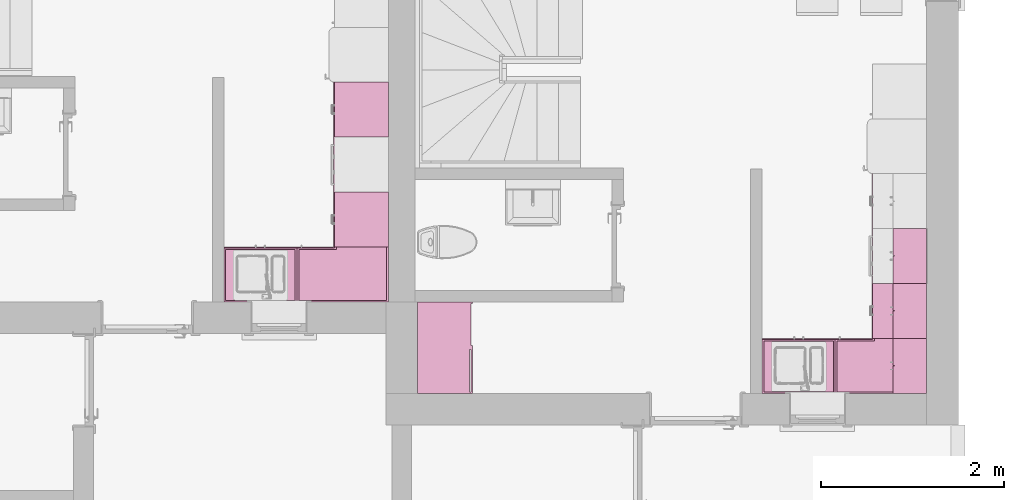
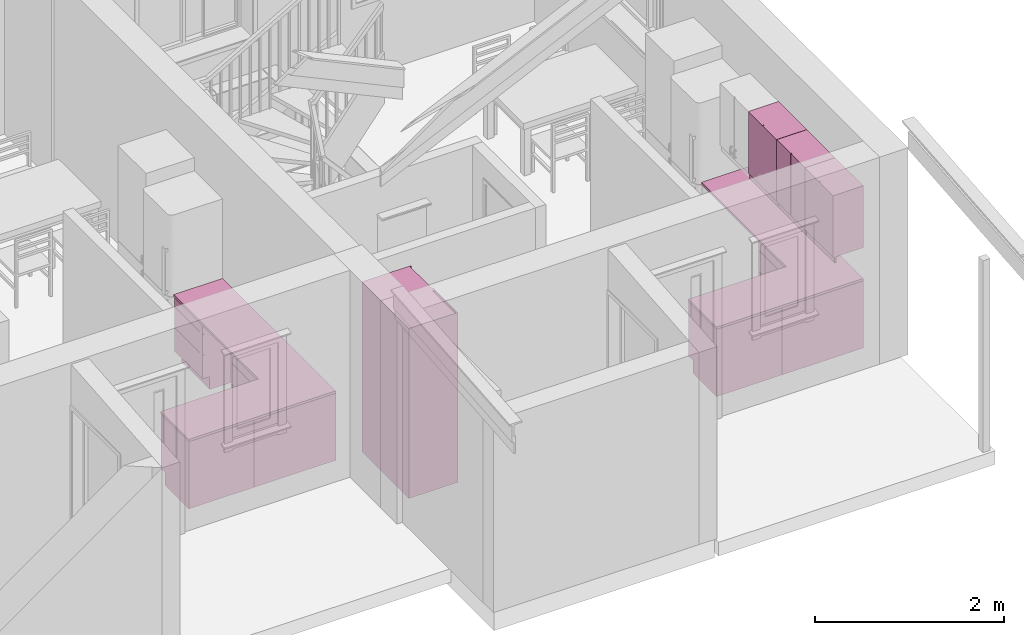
# One storey, part 42 of 65: 13 furnishings.
"""IFC2X3 building model written with IfcOpenShell, lengths in millimetres."""

from ifc_helpers import new_model, entity, si_unit, converted_unit, direction, frame, frame_2d, origin, place, context, subcontext, project, spatial, polyline, rectangle, outline, extrude, faceted_brep, source, transform, mapped, material, material_list, type_object, type_shapes, element, save


model = new_model("IFC2X3")

# Units and contexts
model_context = context("Model", 3, precision=0.01, world=origin(), true_north=direction((0.0, 1.0)))
body_context = subcontext(model_context, "Body", "Model", "MODEL_VIEW")
ifc_project = project(units=[si_unit("LENGTHUNIT", "METRE", prefix="MILLI"), si_unit("AREAUNIT", "SQUARE_METRE"), si_unit("VOLUMEUNIT", "CUBIC_METRE"), converted_unit("PLANEANGLEUNIT", "DEGREE", entity("IfcPlaneAngleMeasure", 0.017453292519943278), si_unit("PLANEANGLEUNIT", "RADIAN"), dimensions=[0, 0, 0, 0, 0, 0, 0])], contexts=[model_context])

# Site, building, storey, space
site_placement = place(None, origin())
site = spatial("IfcSite", under=ifc_project, at=site_placement, Name="Default", CompositionType="ELEMENT")
building_placement = place(site_placement, origin())
building = spatial("IfcBuilding", under=site, at=building_placement, CompositionType="ELEMENT")
storey_placement = place(building_placement, origin())
storey = spatial("IfcBuildingStorey", under=building, at=storey_placement, Name="Et. 1", CompositionType="ELEMENT", Elevation=0.0)
space_1_placement = place(storey_placement, origin())
space_1 = spatial("IfcSpace", under=storey, at=space_1_placement, Name="115", CompositionType="ELEMENT", InteriorOrExteriorSpace="INTERNAL")

# Furnishing
ifc_material_1 = material(Name="Møbler - Hvit")
furniture_type_1 = type_object("IfcFurnitureType", Name="Focus Garderobeskap - Skyvedører 2 slette:100x60x220", AssemblyPlace="NOTDEFINED", material=ifc_material_1)
shared_shape_1 = source(origin(), body_context, "Body", "SweptSolid", [
    extrude(rectangle(XDim=16.000000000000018, YDim=504.0000000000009, at=frame_2d((0.0, 4.263256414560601e-14), x_axis=(1.0, 0.0))), frame((232.0, 292.0, 10.0), z_axis=(0.0, 0.0, 1.0), x_axis=(0.0, 1.0, 0.0)), (0.0, 0.0, 1.0), 2189.9999999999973),
    extrude(rectangle(XDim=16.000000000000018, YDim=504.00000000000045, at=frame_2d((0.0, 4.263256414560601e-14), x_axis=(1.0, 0.0))), frame((-232.0, 276.0, 10.0), z_axis=(0.0, 0.0, 1.0), x_axis=(0.0, 1.0, 0.0)), (0.0, 0.0, 1.0), 2189.9999999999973),
    extrude(outline(polyline([(-442.0, -500.0), (158.0, -500.0), (158.0, -484.0), (126.0, -484.0), (126.0, 484.0), (158.0, 484.0), (158.0, 500.0), (-442.0, 500.0), (-442.0, -500.0)])), frame((0.0, 142.0, 0.0), z_axis=(0.0, 0.0, 1.0), x_axis=(0.0, 1.0, 0.0)), (0.0, 0.0, 1.0), 2200.0000000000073),
])
type_shapes(furniture_type_1, [shared_shape_1])
furnishing_1_placement = place(space_1_placement, frame((28651.009586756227, 9254.18095768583, 0.0), z_axis=(0.0, 0.0, 1.0), x_axis=(0.0, -1.0, 0.0)))
element("IfcFurnishingElement", 1, at=furnishing_1_placement, inside=space_1, type_object=furniture_type_1, material=ifc_material_1, Name="Focus Garderobeskap - Skyvedører 2 slette:100x60x220", context=body_context, shape_type="MappedRepresentation", body=[
    mapped(shared_shape_1, transform((0.0, 0.0, 0.0), scale=1.0)),
])

# Space
space_2_placement = place(storey_placement, origin())
space_2 = spatial("IfcSpace", under=storey, at=space_2_placement, Name="113", CompositionType="ELEMENT", InteriorOrExteriorSpace="INTERNAL")

# Furnishing
ifc_material_2 = material(Name="Focus - Kjøkken - Front")
ifc_material_3 = material(Name="Focus - Kjøkken - Skapstamme")
ifc_material_list = material_list([ifc_material_2, ifc_material_3])
furniture_type_2 = type_object("IfcFurnitureType", Name="Focus - Kjøkken - Benkeskap 3 skuffer:600 mm", AssemblyPlace="NOTDEFINED", material=ifc_material_list)
shared_shape_2 = source(origin(), body_context, "Body", "SweptSolid", [
    extrude(rectangle(XDim=600.0, YDim=503.99999999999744, at=frame_2d((-2.842170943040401e-14, -2.842170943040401e-14), x_axis=(1.0, 0.0))), frame((-254.58506095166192, 499.8168112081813, 0.0), z_axis=(0.0, 0.0, 1.0), x_axis=(-1.0, 0.0, 0.0)), (0.0, 0.0, 1.0), 165.99999999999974),
    extrude(rectangle(XDim=16.000000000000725, YDim=600.0000000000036, at=frame_2d((0.0, 2.842170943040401e-14), x_axis=(1.0, 0.0))), frame((-254.58506095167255, 169.81681120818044, 747.0), z_axis=(0.0, 0.0, 1.0), x_axis=(0.0, -1.0, 0.0)), (0.0, 0.0, 1.0), 122.99999999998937),
    extrude(rectangle(XDim=16.000000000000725, YDim=600.0, at=frame_2d((0.0, 2.842170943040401e-14), x_axis=(1.0, 0.0))), frame((-254.58506095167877, 169.81681120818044, 166.0), z_axis=(0.0, 0.0, 1.0), x_axis=(0.0, -1.0, 0.0)), (0.0, 0.0, 1.0), 303.0000000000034),
    extrude(rectangle(XDim=16.000000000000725, YDim=599.9999999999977, at=frame_2d((0.0, 2.842170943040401e-14), x_axis=(1.0, 0.0))), frame((-254.58506095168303, 169.81681120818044, 475.0), z_axis=(0.0, 0.0, 1.0), x_axis=(0.0, -1.0, 0.0)), (0.0, 0.0, 1.0), 265.9999999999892),
    extrude(rectangle(XDim=573.9999999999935, YDim=599.9999999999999, at=frame_2d((-90.33333333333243, 2.842170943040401e-14), x_axis=(1.0, 0.0))), frame((-254.5850609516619, 555.1501445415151, 166.0), z_axis=(0.0, 0.0, 1.0), x_axis=(0.0, 1.0, 0.0)), (0.0, 0.0, 1.0), 704.0000000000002),
])
type_shapes(furniture_type_2, [shared_shape_2])
furnishing_2_placement = place(space_2_placement, frame((33167.19277554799, 9399.59589673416, 0.0), z_axis=(0.0, 0.0, 1.0), x_axis=(0.0, -1.0, 0.0)))
element("IfcFurnishingElement", 2, at=furnishing_2_placement, inside=space_2, type_object=furniture_type_2, material=ifc_material_list, Name="Focus - Kjøkken - Benkeskap 3 skuffer:600 mm", context=body_context, shape_type="MappedRepresentation", body=[
    mapped(shared_shape_2, transform((0.0, 0.0, 0.0), scale=1.0)),
])

# Space
space_3_placement = place(storey_placement, origin())
space_3 = spatial("IfcSpace", under=storey, at=space_3_placement, Name="109", CompositionType="ELEMENT", InteriorOrExteriorSpace="INTERNAL")

# Furnishings
for number, where, z_axis, x_axis in (
    (3, (27280.192775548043, 10399.595896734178, 0.0), (0.0, 0.0, 1.0), (0.0, -1.0, 0.0)),
    (4, (27280.19277554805, 11601.473658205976, 0.0), (0.0, 0.0, 1.0), (0.0, -1.0, 0.0)),
):
    element("IfcFurnishingElement", number, at=place(space_3_placement, frame(where, z_axis=z_axis, x_axis=x_axis)), inside=space_3, type_object=furniture_type_2, material=ifc_material_list, Name="Focus - Kjøkken - Benkeskap 3 skuffer:600 mm", context=body_context, shape_type="MappedRepresentation", body=[
        mapped(shared_shape_2, transform((0.0, 0.0, 0.0), scale=1.0)),
    ])
furniture_type_3 = type_object("IfcFurnitureType", Name="Focus - Kjøkken - Benkeskap  2  dører:800 mm", AssemblyPlace="NOTDEFINED", material=ifc_material_list)
shared_shape_3 = source(origin(), body_context, "Body", "Brep", [
    faceted_brep([(145.41493904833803, 751.8168112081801, 166.0), (-654.5850609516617, 751.8168112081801, 166.0), (-654.5850609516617, 247.8168112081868, 166.0), (145.41493904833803, 247.8168112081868, 166.0), (145.41493904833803, 751.8168112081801, 0.0), (145.41493904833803, 247.8168112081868, 0.0), (-654.5850609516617, 247.8168112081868, 0.0), (-654.5850609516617, 751.8168112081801, 0.0)], [[[0, 1, 2, 3]], [[4, 5, 6, 7]], [[1, 0, 4, 7]], [[2, 1, 7, 6]], [[3, 2, 6, 5]], [[0, 3, 5, 4]]]),
    faceted_brep([(-253.58506095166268, 177.81681120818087, 870.0), (145.41493904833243, 177.8168112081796, 870.0), (145.41493904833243, 177.8168112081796, 166.0), (-253.58506095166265, 177.81681120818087, 166.0), (-253.58506095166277, 161.81681120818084, 870.0), (-253.5850609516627, 161.81681120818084, 166.0), (145.41493904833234, 161.81681120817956, 166.0), (145.41493904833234, 161.81681120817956, 870.0)], [[[0, 1, 2, 3]], [[4, 5, 6, 7]], [[1, 0, 4, 7]], [[2, 1, 7, 6]], [[3, 2, 6, 5]], [[0, 3, 5, 4]]]),
    faceted_brep([(-255.58506095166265, 177.81681120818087, 166.0), (-255.58506095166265, 177.81681120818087, 870.0), (-255.5850609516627, 161.81681120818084, 870.0), (-255.5850609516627, 161.81681120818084, 166.0), (-654.5850609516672, 177.81681120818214, 166.0), (-654.5850609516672, 161.81681120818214, 166.0), (-654.5850609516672, 177.81681120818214, 870.0), (-654.5850609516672, 161.81681120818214, 870.0)], [[[0, 1, 2, 3]], [[4, 0, 3, 5]], [[6, 4, 5, 7]], [[1, 6, 7, 2]], [[2, 7, 5, 3]], [[1, 0, 4, 6]]]),
    faceted_brep([(-654.5850609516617, 177.81681120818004, 870.0), (-654.5850609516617, 177.81681120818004, 166.0), (145.41493904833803, 177.81681120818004, 166.0), (145.41493904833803, 177.81681120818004, 870.0), (125.41493904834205, 177.81681120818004, 870.0), (125.41493904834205, 177.81681120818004, 186.0), (-634.5850609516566, 177.81681120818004, 186.0), (-634.5850609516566, 177.81681120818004, 870.0), (145.41493904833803, 751.8168112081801, 870.0), (145.41493904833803, 751.8168112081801, 166.0), (-654.5850609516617, 751.8168112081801, 166.0), (-654.5850609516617, 751.8168112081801, 870.0), (-654.5850609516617, 735.8168112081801, 166.0), (145.41493904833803, 735.8168112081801, 166.0), (-634.5850609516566, 735.8168112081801, 870.0), (125.41493904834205, 735.8168112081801, 870.0), (125.41493904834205, 735.8168112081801, 186.0), (-634.5850609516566, 735.8168112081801, 186.0)], [[[0, 1, 2, 3, 4, 5, 6, 7]], [[8, 9, 10, 11]], [[1, 0, 11, 10, 12]], [[2, 1, 12, 10, 9, 13]], [[8, 3, 2, 13, 9]], [[4, 3, 8, 11, 0, 7, 14, 15]], [[5, 4, 15, 16]], [[6, 5, 16, 17]], [[7, 6, 17, 14]], [[15, 14, 17, 16]]]),
])
type_shapes(furniture_type_3, [shared_shape_3])
furnishing_3_placement = place(space_2_placement, frame((32264.424525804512, 9505.997768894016, 0.0), z_axis=(0.0, 0.0, 1.0), x_axis=(-1.0, 0.0, 0.0)))
element("IfcFurnishingElement", 5, at=furnishing_3_placement, inside=space_2, type_object=furniture_type_3, material=ifc_material_list, Name="Focus - Kjøkken - Benkeskap  2  dører:800 mm", context=body_context, shape_type="MappedRepresentation", body=[
    mapped(shared_shape_3, transform((0.0, 0.0, 0.0), scale=1.0)),
])
furnishing_4_placement = place(space_3_placement, frame((26377.424525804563, 10505.997768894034, 0.0), z_axis=(0.0, 0.0, 1.0), x_axis=(-1.0, 0.0, 0.0)))
element("IfcFurnishingElement", 6, at=furnishing_4_placement, inside=space_3, type_object=furniture_type_3, material=ifc_material_list, Name="Focus - Kjøkken - Benkeskap  2  dører:800 mm", context=body_context, shape_type="MappedRepresentation", body=[
    mapped(shared_shape_3, transform((0.0, 0.0, 0.0), scale=1.0)),
])
furniture_type_4 = type_object("IfcFurnitureType", Name="Focus - Kjøkken - Benkeskap  Hjørne:1000x650 mm", AssemblyPlace="NOTDEFINED", material=ifc_material_list)
shared_shape_4 = source(origin(), body_context, "Body", "Brep", [
    faceted_brep([(-7.185060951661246, 751.8168112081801, 166.0), (-1007.1850609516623, 751.8168112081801, 166.0), (-1007.1850609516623, 101.81681120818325, 166.0), (-503.1850609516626, 101.81681120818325, 166.0), (-503.1850609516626, 247.81681120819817, 166.0), (-7.185060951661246, 247.81681120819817, 166.0), (-7.185060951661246, 751.8168112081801, 0.0), (-7.185060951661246, 247.81681120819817, 0.0), (-503.1850609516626, 247.81681120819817, 0.0), (-503.1850609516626, 101.81681120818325, 0.0), (-1007.1850609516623, 101.81681120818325, 0.0), (-1007.1850609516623, 751.8168112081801, 0.0)], [[[0, 1, 2, 3, 4, 5]], [[6, 7, 8, 9, 10, 11]], [[1, 0, 6, 11]], [[2, 1, 11, 10]], [[3, 2, 10, 9]], [[4, 3, 9, 8]], [[5, 4, 8, 7]], [[0, 5, 7, 6]]]),
    faceted_brep([(-7.18506095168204, 177.81681120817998, 870.0), (-7.185060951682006, 177.81681120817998, 166.0), (-392.18506095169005, 177.8168112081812, 166.0), (-392.1850609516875, 177.8168112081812, 870.0), (-7.185060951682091, 161.81681120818, 870.0), (-392.18506095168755, 161.8168112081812, 870.0), (-392.1850609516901, 161.8168112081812, 166.0), (-7.185060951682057, 161.81681120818, 166.0)], [[[0, 1, 2, 3]], [[4, 5, 6, 7]], [[1, 0, 4, 7]], [[2, 1, 7, 6]], [[3, 2, 6, 5]], [[0, 3, 5, 4]]]),
    faceted_brep([(-7.185060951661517, 177.81681120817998, 166.0), (-7.185060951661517, 177.81681120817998, 870.0), (-27.18506095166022, 177.81681120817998, 870.0), (-27.18506095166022, 177.81681120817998, 190.0), (-392.1850609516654, 177.81681120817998, 190.0), (-392.1850609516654, 177.81681120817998, 166.0), (-7.185060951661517, 751.8168112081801, 870.0), (-7.185060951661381, 751.8168112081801, 166.0), (-1007.185060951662, 751.8168112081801, 166.0), (-1007.1850609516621, 751.8168112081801, 870.0), (-1007.1850609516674, 101.81681120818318, 870.0), (-417.18506095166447, 101.81681120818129, 870.0), (-417.1850609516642, 161.81681120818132, 870.0), (-392.18506095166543, 161.81681120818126, 870.0), (-392.1850609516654, 177.81681120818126, 870.0), (-437.18506095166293, 177.8168112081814, 870.0), (-437.18506095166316, 117.81681120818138, 870.0), (-987.1850609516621, 117.81681120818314, 870.0), (-987.1850609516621, 735.8168112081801, 870.0), (-27.18506095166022, 735.8168112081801, 870.0), (-1007.185060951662, 101.81681120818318, 166.0), (-392.1850609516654, 161.81681120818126, 166.0), (-417.1850609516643, 161.81681120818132, 166.0), (-417.18506095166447, 101.81681120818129, 166.0), (-27.185060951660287, 735.8168112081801, 190.0), (-987.1850609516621, 735.8168112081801, 190.0), (-987.1850609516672, 117.81681120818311, 190.0), (-437.1850609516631, 117.81681120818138, 190.0), (-437.18506095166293, 177.8168112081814, 190.0)], [[[0, 1, 2, 3, 4, 5]], [[6, 7, 8, 9]], [[2, 1, 6, 9, 10, 11, 12, 13, 14, 15, 16, 17, 18, 19]], [[9, 8, 20, 10]], [[8, 7, 0, 5, 21, 22, 23, 20]], [[1, 0, 7, 6]], [[3, 2, 19, 24]], [[3, 24, 25, 26, 27, 28, 4]], [[25, 18, 17, 26]], [[19, 18, 25, 24]], [[28, 15, 14, 4]], [[10, 20, 23, 11]], [[15, 28, 27, 16]], [[11, 23, 22, 12]], [[17, 16, 27, 26]], [[13, 12, 22, 21]], [[13, 21, 5, 4, 14]]]),
])
type_shapes(furniture_type_4, [shared_shape_4])
furnishing_5_placement = place(space_2_placement, frame((32911.8245258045, 9505.997768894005, 0.0), z_axis=(0.0, 0.0, 1.0), x_axis=(-1.0, 0.0, 0.0)))
element("IfcFurnishingElement", 7, at=furnishing_5_placement, inside=space_2, type_object=furniture_type_4, material=ifc_material_list, Name="Focus - Kjøkken - Benkeskap  Hjørne:1000x650 mm", context=body_context, shape_type="MappedRepresentation", body=[
    mapped(shared_shape_4, transform((0.0, 0.0, 0.0), scale=1.0)),
])
furnishing_6_placement = place(space_3_placement, frame((27024.824525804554, 10505.997768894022, 0.0), z_axis=(0.0, 0.0, 1.0), x_axis=(-1.0, 0.0, 0.0)))
element("IfcFurnishingElement", 8, at=furnishing_6_placement, inside=space_3, type_object=furniture_type_4, material=ifc_material_list, Name="Focus - Kjøkken - Benkeskap  Hjørne:1000x650 mm", context=body_context, shape_type="MappedRepresentation", body=[
    mapped(shared_shape_4, transform((0.0, 0.0, 0.0), scale=1.0)),
])
ifc_material_4 = material(Name="Focus - Material - Benkeplate")
furniture_type_5 = type_object("IfcFurnitureType", Name="Focus - Kjøkken - Benkeplate Hjørne:Focus - Kjøkken - Benkeplate Hjørne", AssemblyPlace="NOTDEFINED", material=ifc_material_4)
shared_shape_5 = source(origin(), body_context, "Body", "SweptSolid", [
    extrude(outline(polyline([(-1000.6259204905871, -800.0), (1401.251840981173, -800.0), (1401.251840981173, -200.0), (-400.6259204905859, -200.0), (-400.6259204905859, 1000.0), (-1000.6259204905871, 1000.0), (-1000.6259204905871, -800.0)])), frame((799.3740795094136, -800.0, 870.0), z_axis=(0.0, 0.0, 1.0), x_axis=(-1.0, 0.0, 0.0)), (0.0, 0.0, 1.0), 29.999999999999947),
])
type_shapes(furniture_type_5, [shared_shape_5])
furnishing_7_placement = place(space_2_placement, frame((33919.00958675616, 10554.180957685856, 0.0), z_axis=(0.0, 0.0, 1.0), x_axis=(0.0, -1.0, 0.0)))
element("IfcFurnishingElement", 9, at=furnishing_7_placement, inside=space_2, type_object=furniture_type_5, material=ifc_material_4, Name="Focus - Kjøkken - Benkeplate Hjørne:Focus - Kjøkken - Benkeplate Hjørne", context=body_context, shape_type="MappedRepresentation", body=[
    mapped(shared_shape_5, transform((0.0, 0.0, 0.0), scale=1.0)),
])
furnishing_8_placement = place(space_3_placement, frame((28032.009586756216, 11554.180957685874, 0.0), z_axis=(0.0, 0.0, 1.0), x_axis=(0.0, -1.0, 0.0)))
element("IfcFurnishingElement", 10, at=furnishing_8_placement, inside=space_3, type_object=furniture_type_5, material=ifc_material_4, Name="Focus - Kjøkken - Benkeplate Hjørne:Focus - Kjøkken - Benkeplate Hjørne", context=body_context, shape_type="MappedRepresentation", body=[
    mapped(shared_shape_5, transform((0.0, 0.0, 0.0), scale=1.0)),
])
furniture_type_6 = type_object("IfcFurnitureType", Name="Focus - Kjøkken - Veggskap 2 dør:600x370x400", AssemblyPlace="NOTDEFINED", material=ifc_material_list)
shared_shape_6 = source(origin(), body_context, "Body", "Brep", [
    faceted_brep([(-257.58506095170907, 397.8168112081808, 2100.0), (-257.58506095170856, 397.8168112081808, 1300.0), (-554.5850609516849, 397.8168112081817, 1300.0), (-554.5850609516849, 397.8168112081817, 2100.0), (-257.5850609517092, 381.81681120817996, 2100.0), (-257.5850609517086, 381.81681120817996, 1300.0), (-554.585060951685, 381.8168112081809, 1300.0), (-554.585060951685, 381.8168112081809, 2100.0)], [[[0, 1, 2, 3]], [[1, 0, 4, 5]], [[2, 1, 5, 6]], [[3, 2, 6, 7]], [[0, 3, 7, 4]], [[4, 7, 6, 5]]]),
    faceted_brep([(-251.58506095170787, 381.81681120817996, 1300.0), (45.414939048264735, 381.81681120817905, 1300.0), (45.414939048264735, 381.81681120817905, 2100.0), (-251.58506095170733, 381.81681120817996, 2100.0), (-251.58506095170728, 397.8168112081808, 2100.0), (-251.58506095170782, 397.8168112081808, 1300.0), (45.4149390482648, 397.81681120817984, 2100.0), (45.4149390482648, 397.81681120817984, 1300.0)], [[[0, 1, 2, 3]], [[4, 5, 0, 3]], [[6, 4, 3, 2]], [[7, 6, 2, 1]], [[5, 7, 1, 0]], [[5, 4, 6, 7]]]),
    faceted_brep([(45.414939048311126, 413.8168112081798, 1300.0), (45.414939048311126, 413.8168112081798, 1225.0), (-554.5850609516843, 413.8168112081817, 1225.0), (-554.5850609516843, 413.8168112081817, 1300.0), (45.4149390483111, 397.8168112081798, 1300.0), (-554.5850609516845, 397.81681120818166, 1300.0), (-554.5850609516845, 397.81681120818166, 1225.0), (45.414939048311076, 397.8168112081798, 1225.0)], [[[0, 1, 2, 3]], [[4, 5, 6, 7]], [[1, 0, 4, 7]], [[2, 1, 7, 6]], [[3, 2, 6, 5]], [[0, 3, 5, 4]]]),
    faceted_brep([(45.41493904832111, 751.8168112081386, 2100.0), (-554.5850609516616, 751.8168112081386, 2100.0), (-554.5850609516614, 397.8168112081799, 2100.0), (45.41493904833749, 397.8168112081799, 2100.0), (45.41493904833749, 397.8168112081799, 1300.0), (-554.5850609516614, 397.8168112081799, 1300.0), (-554.5850609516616, 751.8168112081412, 1300.0), (45.41493904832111, 751.8168112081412, 1300.0), (-538.5850609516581, 735.8168112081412, 1316.0), (29.414939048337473, 735.8168112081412, 1316.0), (29.414939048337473, 735.8168112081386, 2084.0), (-538.5850609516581, 735.8168112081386, 2084.0), (29.414939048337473, 397.8168112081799, 2084.0), (29.414939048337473, 397.8168112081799, 1316.0), (-538.5850609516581, 397.8168112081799, 1316.0), (-538.5850609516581, 397.8168112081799, 2084.0)], [[[0, 1, 2, 3]], [[4, 5, 6, 7]], [[1, 0, 7, 6]], [[2, 1, 6, 5]], [[8, 9, 10, 11]], [[0, 3, 4, 7]], [[3, 2, 5, 4], [12, 13, 14, 15]], [[14, 13, 9, 8]], [[15, 14, 8, 11]], [[12, 15, 11, 10]], [[13, 12, 10, 9]]]),
])
type_shapes(furniture_type_6, [shared_shape_6])
for number, where, z_axis, x_axis in (
    (11, (33167.19277554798, 9399.595896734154, 0.0), (0.0, 0.0, 1.0), (0.0, -1.0, 0.0)),
    (12, (33167.19277554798, 10001.473658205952, 0.0), (0.0, 0.0, 1.0), (0.0, -1.0, 0.0)),
    (13, (33167.19277554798, 8799.595896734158, 0.0), (0.0, 0.0, 1.0), (0.0, -1.0, 0.0)),
):
    element("IfcFurnishingElement", number, at=place(space_2_placement, frame(where, z_axis=z_axis, x_axis=x_axis)), inside=space_2, type_object=furniture_type_6, material=ifc_material_list, Name="Focus - Kjøkken - Veggskap 2 dør:600x370x400", context=body_context, shape_type="MappedRepresentation", body=[
        mapped(shared_shape_6, transform((0.0, 0.0, 0.0), scale=1.0)),
    ])

save(model, "model.ifc")
